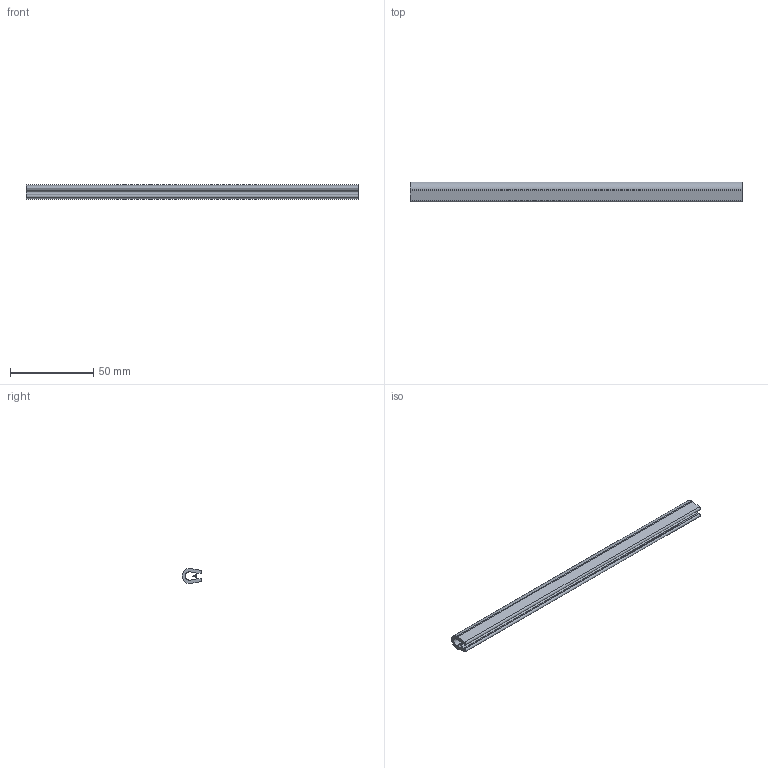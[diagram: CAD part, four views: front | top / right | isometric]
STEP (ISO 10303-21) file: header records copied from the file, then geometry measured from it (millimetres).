
FILE_DESCRIPTION (( 'STEP AP214' ), '1' );
FILE_NAME ('1.6016 Reunasuoja 1,0-3,0.STEP', '2024-03-14T09:13:08', ( '' ), ( '' ), 'SwSTEP 2.0', 'SolidWorks 2024', '' );
FILE_SCHEMA (( 'AUTOMOTIVE_DESIGN' ));
Length unit declared in the file: millimetre
Products named in the file (1): 1.6016 Reunasuoja 1,0-3,0
Bounding box: 200 x 12 x 9 mm (x, y, z)
Volume: 10680.7 mm3; surface area: 13557.7 mm2
Topology: 1 solids, 1 shells, 21 faces, 57 edges, 38 vertices
Faces by surface type: cylinder 13, plane 8
Entity records: 935 total; most frequent: DIRECTION 127, CARTESIAN_POINT 117, ORIENTED_EDGE 114, EDGE_CURVE 57, AXIS2_PLACEMENT_3D 48, VERTEX_POINT 38, VECTOR 31, LINE 31
